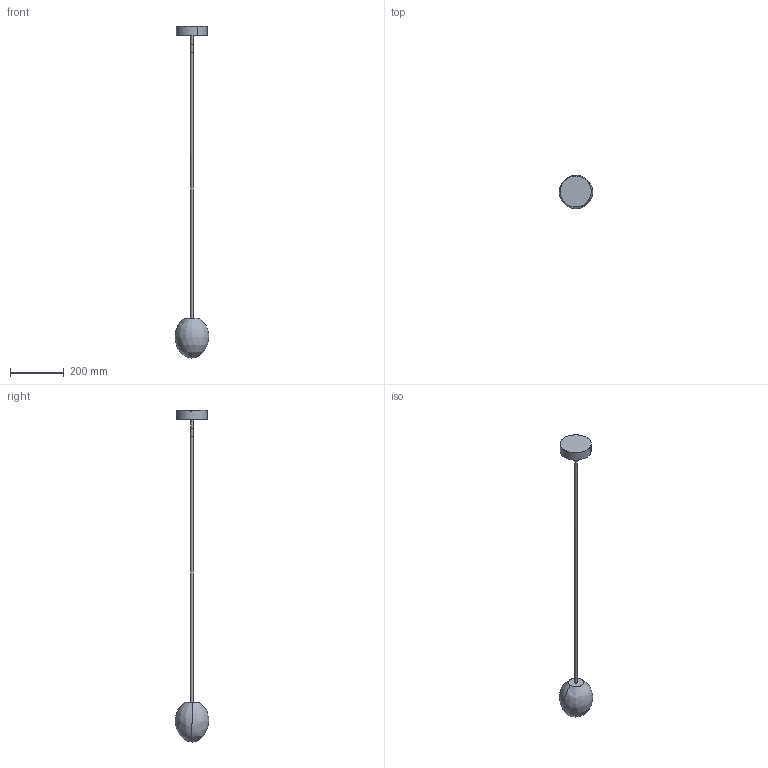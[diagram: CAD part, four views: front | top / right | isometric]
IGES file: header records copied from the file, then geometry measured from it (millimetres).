
Start section: Use this template file for building objects the size of a truck or smaller, and for objects which must be built to manufacturing tolerances. Units: Millimeters Absolute tolerance: .001 mm
Bounding box: 124.98 x 125 x 1231.08 mm (x, y, z)
Surface area: 117212.8 mm2 (no closed solid volume)
Topology: 0 solids, 0 shells, 12 faces, 65 edges, 59 vertices
Faces by surface type: bspline 12
